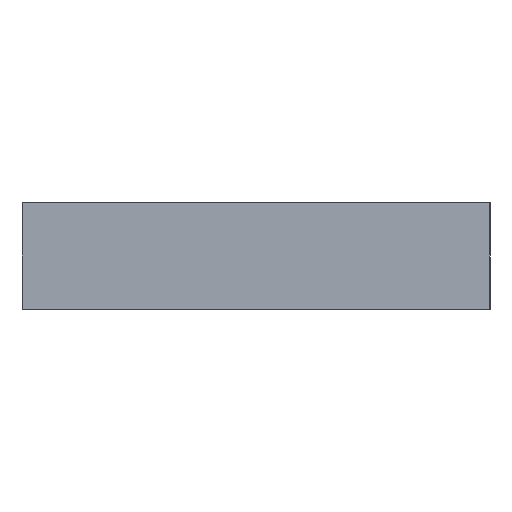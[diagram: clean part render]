
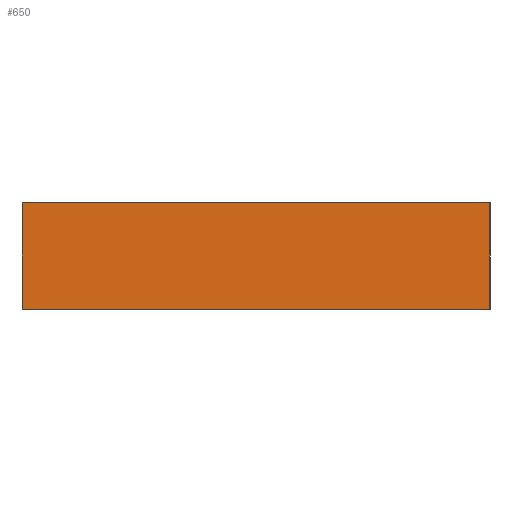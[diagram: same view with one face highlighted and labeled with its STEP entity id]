
A CAD part, front view. The second image highlights one B-rep face of the part: STEP entity #650.
In plain terms, the highlighted planar face has unit normal (0, -1, 0).
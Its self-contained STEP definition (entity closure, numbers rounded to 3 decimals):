
#68 = DIRECTION ( 'NONE',  ( -1., 0., 0. ) ) ;
#69 = DIRECTION ( 'NONE',  ( 0., 1., 0. ) ) ;
#74 = CARTESIAN_POINT ( 'NONE',  ( 98.5, 0., 45. ) ) ;
#79 = CARTESIAN_POINT ( 'NONE',  ( 98.5, 0., 45. ) ) ;
#82 = PLANE ( 'NONE',  #158 ) ;
#112 = CARTESIAN_POINT ( 'NONE',  ( -98.5, 0., 0. ) ) ;
#134 = CARTESIAN_POINT ( 'NONE',  ( -98.5, 0., 45. ) ) ;
#147 = CARTESIAN_POINT ( 'NONE',  ( 98.5, 0., 0. ) ) ;
#158 = AXIS2_PLACEMENT_3D ( 'NONE', #79, #69, #68 ) ;
#186 = EDGE_CURVE ( 'NONE', #528, #562, #483, .T. ) ;
#191 = EDGE_CURVE ( 'NONE', #503, #528, #432, .T. ) ;
#208 = EDGE_CURVE ( 'NONE', #605, #503, #453, .T. ) ;
#213 = EDGE_CURVE ( 'NONE', #562, #605, #443, .T. ) ;
#222 = ORIENTED_EDGE ( 'NONE', *, *, #208, .T. ) ;
#267 = ORIENTED_EDGE ( 'NONE', *, *, #186, .T. ) ;
#303 = EDGE_LOOP ( 'NONE', ( #267, #327, #222, #330 ) ) ;
#327 = ORIENTED_EDGE ( 'NONE', *, *, #213, .T. ) ;
#330 = ORIENTED_EDGE ( 'NONE', *, *, #191, .T. ) ;
#362 = VECTOR ( 'NONE', #575, 1000. ) ;
#372 = VECTOR ( 'NONE', #572, 1000. ) ;
#401 = FACE_OUTER_BOUND ( 'NONE', #303, .T. ) ;
#432 = LINE ( 'NONE', #542, #372 ) ;
#442 = VECTOR ( 'NONE', #609, 1000. ) ;
#443 = LINE ( 'NONE', #518, #442 ) ;
#452 = VECTOR ( 'NONE', #596, 1000. ) ;
#453 = LINE ( 'NONE', #595, #452 ) ;
#483 = LINE ( 'NONE', #597, #362 ) ;
#503 = VERTEX_POINT ( 'NONE', #112 ) ;
#518 = CARTESIAN_POINT ( 'NONE',  ( -98.5, 0., 45. ) ) ;
#528 = VERTEX_POINT ( 'NONE', #147 ) ;
#542 = CARTESIAN_POINT ( 'NONE',  ( -98.5, 0., 0. ) ) ;
#562 = VERTEX_POINT ( 'NONE', #74 ) ;
#572 = DIRECTION ( 'NONE',  ( 1., 0., 0. ) ) ;
#575 = DIRECTION ( 'NONE',  ( 0., 0., 1. ) ) ;
#595 = CARTESIAN_POINT ( 'NONE',  ( -98.5, 0., 0. ) ) ;
#596 = DIRECTION ( 'NONE',  ( 0., 0., -1. ) ) ;
#597 = CARTESIAN_POINT ( 'NONE',  ( 98.5, 0., 0. ) ) ;
#605 = VERTEX_POINT ( 'NONE', #134 ) ;
#609 = DIRECTION ( 'NONE',  ( -1., 0., 0. ) ) ;
#650 = ADVANCED_FACE ( 'NONE', ( #401 ), #82, .F. ) ;
